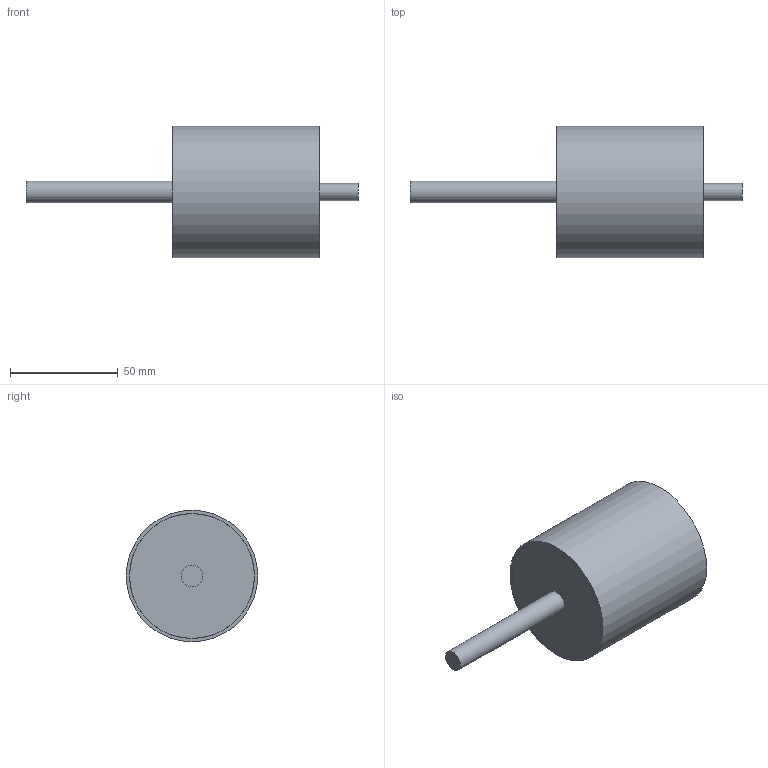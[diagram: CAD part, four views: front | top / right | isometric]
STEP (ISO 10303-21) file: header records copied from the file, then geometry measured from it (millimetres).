
FILE_DESCRIPTION(('Open CASCADE Model'),'2;1');
FILE_NAME('Open CASCADE Shape Model','2026-10-17T21:01:28',('Author'),( 'Open CASCADE'),'Open CASCADE STEP processor 7.9','Open CASCADE 7.9' ,'Unknown');
FILE_SCHEMA(('AUTOMOTIVE_DESIGN { 1 0 10303 214 1 1 1 1 }'));
Length unit declared in the file: millimetre
Products named in the file (7): ARM_L6_ROTOR; magnet_block_N_half; magnet_block_S_half; rotor_carbon_tube; rotor_potting_epoxy; rotor_rear_cap_and_shaft; rotor_nose_cap_and_stub
Assembly tree (6 placements, depth 2):
  ARM_L6_ROTOR
    magnet_block_N_half
    magnet_block_S_half
    rotor_carbon_tube
    rotor_potting_epoxy
    rotor_rear_cap_and_shaft
    rotor_nose_cap_and_stub
Bounding box: 154 x 61 x 61 mm (x, y, z)
Volume: 200926.7 mm3; surface area: 77521.8 mm2
Topology: 6 solids, 6 shells, 37 faces, 67 edges, 44 vertices
Faces by surface type: plane 28, cylinder 9
Full cylindrical faces by diameter (mm): 3 x2, 8 x1, 10 x1, 57.9 x3, 58 x1, 61 x1
Entity records: 2201 total; most frequent: CARTESIAN_POINT 605, DIRECTION 277, LINE 141, VECTOR 141, ORIENTED_EDGE 134, PCURVE 134, DEFINITIONAL_REPRESENTATION 134, EDGE_CURVE 67
